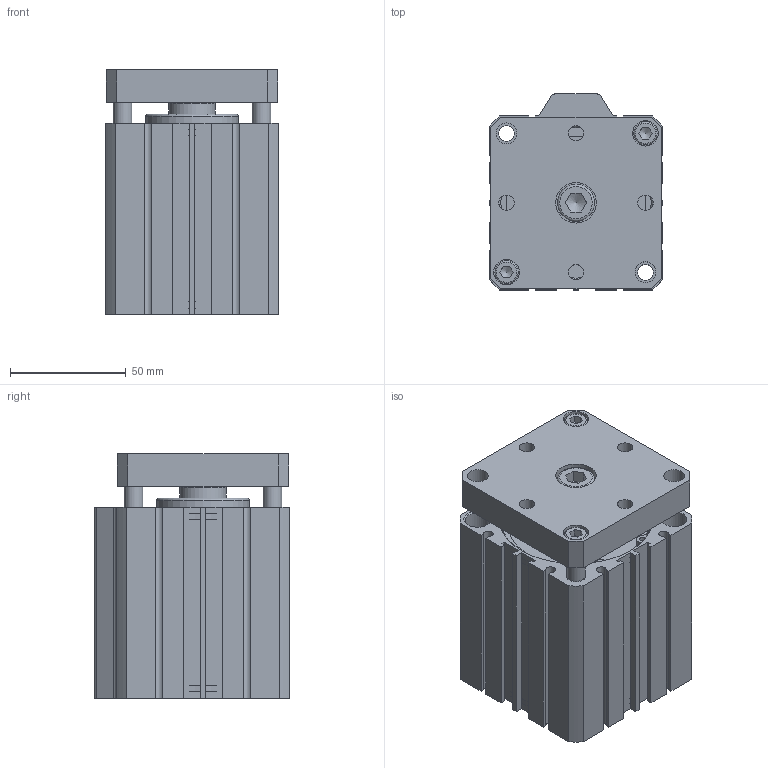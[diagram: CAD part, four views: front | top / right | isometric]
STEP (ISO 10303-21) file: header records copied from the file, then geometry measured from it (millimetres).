
FILE_DESCRIPTION((''),'2;1');
FILE_NAME('I:\3D電子目錄\氣缸\JTD\JTD\JTD63\JTD63x50.stp','2007-08-14T19:51:06',('Administrator'),(''),'Autodesk Inventor 11','Autodesk Inventor 11','');
FILE_SCHEMA(('AUTOMOTIVE_DESIGN { 1 0 10303 214 1 1 1 1 }'));
Length unit declared in the file: millimetre
Products named in the file (5): JTD63; R 形環 65; ISO 4762 M10 x 16; ISO 4762 M6 x 20
Assembly tree (6 placements, depth 2):
  JTD63
    JTD63
    R 形環 65  x2
    ISO 4762 M10 x 16
    ISO 4762 M6 x 20  x2
Bounding box: 75 x 84.5 x 105.5 mm (x, y, z)
Volume: 497017.7 mm3; surface area: 87069.7 mm2
Topology: 7 solids, 7 shells, 232 faces, 563 edges, 372 vertices
Faces by surface type: plane 136, cylinder 61, bspline 16, cone 14, torus 5
Full cylindrical faces by diameter (mm): 2.7 x4, 3 x2, 6 x2, 6.8 x2, 8 x2, 8.5 x2, 9 x2, 10 x3, 11 x4, 16 x1, 20 x1, 40 x1, 47 x1, 65 x4, 68 x2
Entity records: 6069 total; most frequent: CARTESIAN_POINT 1279, DIRECTION 964, ORIENTED_EDGE 866, EDGE_CURVE 433, AXIS2_PLACEMENT_3D 342, VERTEX_POINT 321, EDGE_LOOP 316, VECTOR 280
